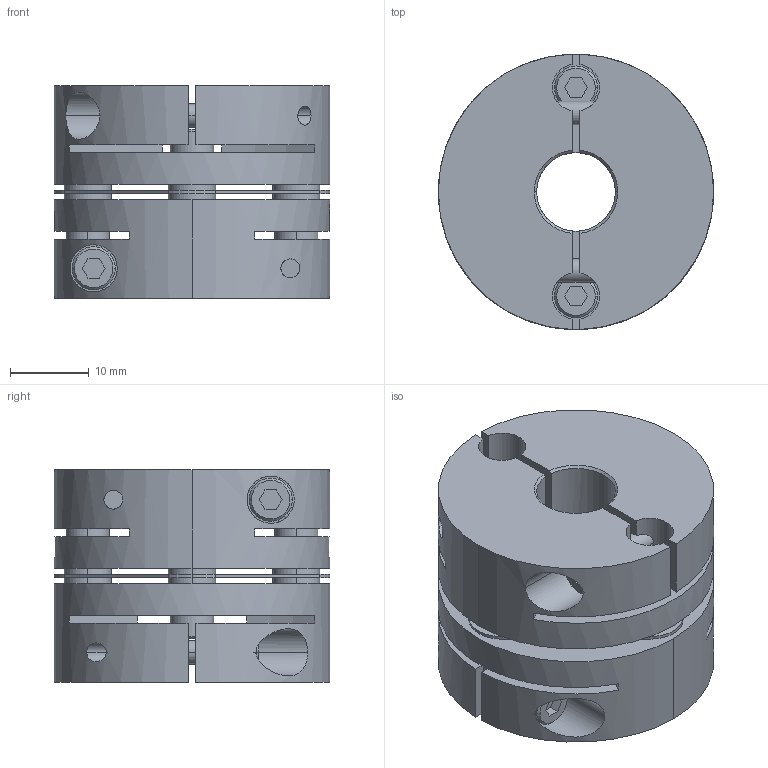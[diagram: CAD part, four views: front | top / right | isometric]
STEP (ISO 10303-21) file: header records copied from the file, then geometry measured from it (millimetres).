
FILE_DESCRIPTION((''),'2;1');
FILE_NAME('LAS-35C-10×16.stp','2011-08-10T16:45:05',(''),(''),'AutoCAD STEP 2000i','AutoCAD 2000i',', , ');
FILE_SCHEMA(('CONFIG_CONTROL_DESIGN'));
Length unit declared in the file: millimetre
Products named in the file (6): LAS-35C-8×14; 忣兜1; LA-3502-D14; LA-3502-D08-1; LA-3502-D08; LAS35-ITA
Assembly tree (5 placements, depth 2):
  LAS-35C-8×14
    忣兜1
    LA-3502-D14
    LA-3502-D08-1
    LA-3502-D08
    LAS35-ITA
Bounding box: 35 x 35 x 27 mm (x, y, z)
Volume: 18545.8 mm3; surface area: 11777.1 mm2
Topology: 1 solids, 1 shells, 236 faces, 624 edges, 408 vertices
Faces by surface type: plane 112, cylinder 96, cone 28
Entity records: 8251 total; most frequent: CARTESIAN_POINT 2068, DIRECTION 1288, ORIENTED_EDGE 1248, EDGE_CURVE 624, AXIS2_PLACEMENT_3D 470, VERTEX_POINT 408, VECTOR 348, LINE 348
